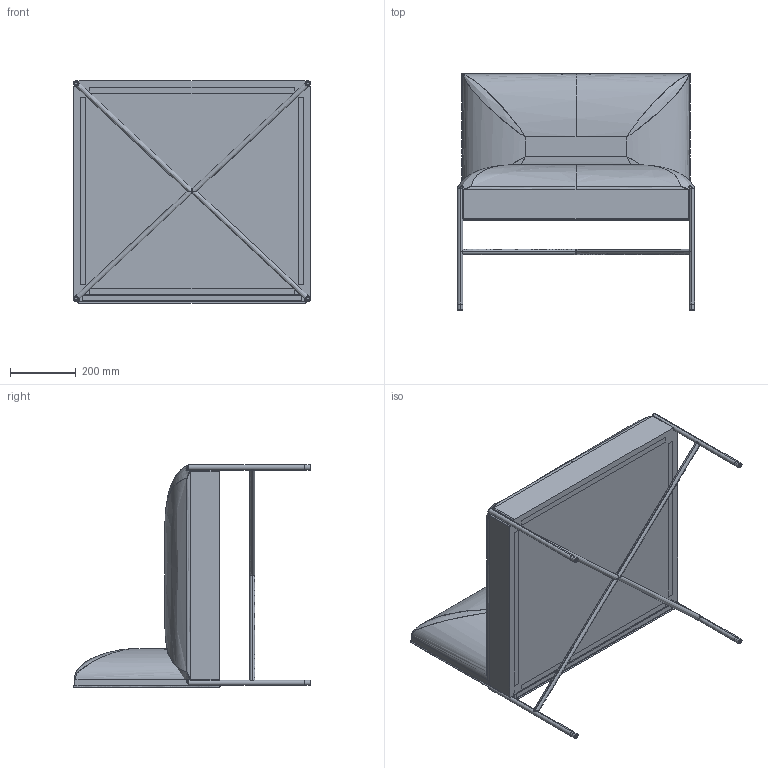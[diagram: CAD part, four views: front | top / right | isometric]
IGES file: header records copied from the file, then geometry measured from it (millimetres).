
Start section: SolidWorks IGES file using analytic representation for surfaces
Global section: file name: W:\design\GORDON GUILLAUMIER\Chill-Out\modelli 3d aggiornati\poltrona R.IGS; native system: SolidWorks 2010; preprocessor: SolidWorks 2010; author: PC20; date: 140714.193911; units: millimetre
Bounding box: 720 x 719.5 x 675.5 mm (x, y, z)
Surface area: 4748350.1 mm2 (no closed solid volume)
Topology: 0 solids, 0 shells, 493 faces, 12543 edges, 14728 vertices
Faces by surface type: bspline 265, revolution 228
